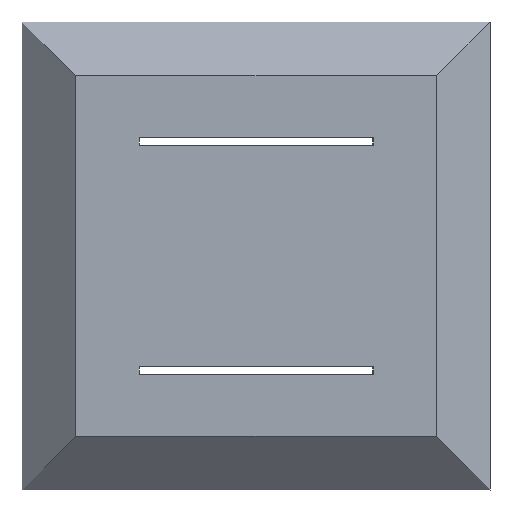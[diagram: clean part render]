
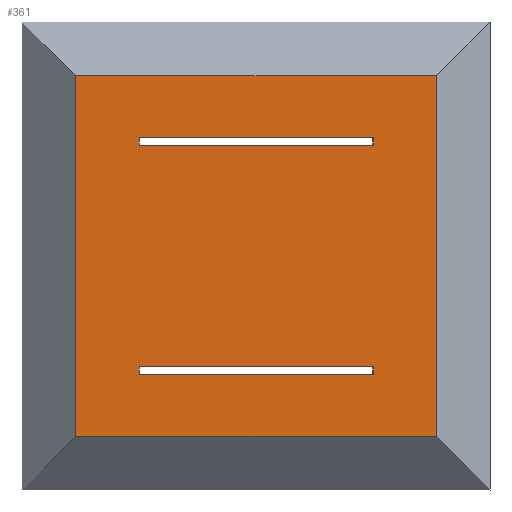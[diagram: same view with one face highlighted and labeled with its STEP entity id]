
A CAD part, front view. The second image highlights one B-rep face of the part: STEP entity #361.
In plain terms, the highlighted planar face has unit normal (0, -1, 0) as drawn and (0, 1, 0) by its records, which use the part's own axes.
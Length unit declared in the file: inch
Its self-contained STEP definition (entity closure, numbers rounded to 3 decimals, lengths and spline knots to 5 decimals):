
#3 = DIRECTION ( 'NONE',  ( 1., 0., 0. ) ) ;
#4 = LINE ( 'NONE', #243, #57 ) ;
#6 = VERTEX_POINT ( 'NONE', #663 ) ;
#10 = ORIENTED_EDGE ( 'NONE', *, *, #345, .F. ) ;
#13 = EDGE_CURVE ( 'NONE', #228, #369, #495, .T. ) ;
#14 = VERTEX_POINT ( 'NONE', #367 ) ;
#15 = CARTESIAN_POINT ( 'NONE',  ( 3.25, 0.475, -3.1875 ) ) ;
#17 = LINE ( 'NONE', #427, #129 ) ;
#47 = CARTESIAN_POINT ( 'NONE',  ( 15.25, 0.475, -14.9375 ) ) ;
#57 = VECTOR ( 'NONE', #293, 39.37008 ) ;
#62 = ORIENTED_EDGE ( 'NONE', *, *, #216, .T. ) ;
#67 = CARTESIAN_POINT ( 'NONE',  ( 0., 0.475, -18.5 ) ) ;
#68 = CARTESIAN_POINT ( 'NONE',  ( 15.25, 0.475, -15.3125 ) ) ;
#83 = EDGE_CURVE ( 'NONE', #6, #170, #716, .T. ) ;
#101 = CARTESIAN_POINT ( 'NONE',  ( 15.25, 0.475, -3.1875 ) ) ;
#107 = ORIENTED_EDGE ( 'NONE', *, *, #734, .F. ) ;
#114 = CARTESIAN_POINT ( 'NONE',  ( 18.5, 0.475, -18.5 ) ) ;
#119 = VERTEX_POINT ( 'NONE', #651 ) ;
#123 = DIRECTION ( 'NONE',  ( 0., 0., 1. ) ) ;
#129 = VECTOR ( 'NONE', #618, 39.37008 ) ;
#133 = VERTEX_POINT ( 'NONE', #190 ) ;
#139 = EDGE_CURVE ( 'NONE', #166, #119, #363, .T. ) ;
#143 = VECTOR ( 'NONE', #123, 39.37008 ) ;
#155 = VERTEX_POINT ( 'NONE', #249 ) ;
#157 = DIRECTION ( 'NONE',  ( 0., 0., -1. ) ) ;
#163 = VECTOR ( 'NONE', #376, 39.37008 ) ;
#166 = VERTEX_POINT ( 'NONE', #15 ) ;
#170 = VERTEX_POINT ( 'NONE', #662 ) ;
#183 = DIRECTION ( 'NONE',  ( -1., 0., 0. ) ) ;
#187 = CARTESIAN_POINT ( 'NONE',  ( 0., 0.475, 0. ) ) ;
#190 = CARTESIAN_POINT ( 'NONE',  ( 18.5, 0.475, 0. ) ) ;
#196 = ORIENTED_EDGE ( 'NONE', *, *, #83, .T. ) ;
#197 = EDGE_CURVE ( 'NONE', #170, #133, #720, .T. ) ;
#198 = DIRECTION ( 'NONE',  ( 0., 0., 1. ) ) ;
#216 = EDGE_CURVE ( 'NONE', #642, #6, #588, .T. ) ;
#222 = VECTOR ( 'NONE', #589, 39.37008 ) ;
#228 = VERTEX_POINT ( 'NONE', #47 ) ;
#236 = VECTOR ( 'NONE', #183, 39.37008 ) ;
#238 = CARTESIAN_POINT ( 'NONE',  ( 3.25, 0.475, -3.1875 ) ) ;
#243 = CARTESIAN_POINT ( 'NONE',  ( 18.5, 0.475, 0. ) ) ;
#249 = CARTESIAN_POINT ( 'NONE',  ( 3.25, 0.475, -14.9375 ) ) ;
#253 = ORIENTED_EDGE ( 'NONE', *, *, #344, .F. ) ;
#261 = CARTESIAN_POINT ( 'NONE',  ( 15.25, 0.475, -15.3125 ) ) ;
#278 = EDGE_LOOP ( 'NONE', ( #196, #570, #407, #62 ) ) ;
#293 = DIRECTION ( 'NONE',  ( 0., 0., -1. ) ) ;
#299 = FACE_BOUND ( 'NONE', #729, .T. ) ;
#300 = ORIENTED_EDGE ( 'NONE', *, *, #13, .F. ) ;
#301 = DIRECTION ( 'NONE',  ( -1., 0., 0. ) ) ;
#308 = CARTESIAN_POINT ( 'NONE',  ( 0., 0.475, 0. ) ) ;
#318 = DIRECTION ( 'NONE',  ( 1., 0., 0. ) ) ;
#326 = VECTOR ( 'NONE', #301, 39.37008 ) ;
#328 = CARTESIAN_POINT ( 'NONE',  ( 3.25, 0.475, -3.5625 ) ) ;
#330 = CARTESIAN_POINT ( 'NONE',  ( 3.25, 0.475, -3.5625 ) ) ;
#333 = EDGE_CURVE ( 'NONE', #133, #642, #4, .T. ) ;
#344 = EDGE_CURVE ( 'NONE', #14, #155, #408, .T. ) ;
#345 = EDGE_CURVE ( 'NONE', #488, #166, #712, .T. ) ;
#355 = DIRECTION ( 'NONE',  ( 0., 0., -1. ) ) ;
#361 = ADVANCED_FACE ( 'NONE', ( #763, #299, #529 ), #412, .F. ) ;
#363 = LINE ( 'NONE', #592, #463 ) ;
#365 = VECTOR ( 'NONE', #689, 39.37008 ) ;
#367 = CARTESIAN_POINT ( 'NONE',  ( 3.25, 0.475, -15.3125 ) ) ;
#369 = VERTEX_POINT ( 'NONE', #68 ) ;
#373 = EDGE_CURVE ( 'NONE', #369, #14, #466, .T. ) ;
#376 = DIRECTION ( 'NONE',  ( 0., 0., -1. ) ) ;
#390 = VERTEX_POINT ( 'NONE', #730 ) ;
#405 = VECTOR ( 'NONE', #157, 39.37008 ) ;
#406 = EDGE_CURVE ( 'NONE', #390, #488, #561, .T. ) ;
#407 = ORIENTED_EDGE ( 'NONE', *, *, #333, .T. ) ;
#408 = LINE ( 'NONE', #647, #143 ) ;
#412 = PLANE ( 'NONE',  #477 ) ;
#421 = CARTESIAN_POINT ( 'NONE',  ( 0., 0.475, 0. ) ) ;
#427 = CARTESIAN_POINT ( 'NONE',  ( 3.25, 0.475, -14.9375 ) ) ;
#434 = LINE ( 'NONE', #101, #405 ) ;
#446 = VECTOR ( 'NONE', #198, 39.37008 ) ;
#461 = EDGE_CURVE ( 'NONE', #119, #390, #434, .T. ) ;
#463 = VECTOR ( 'NONE', #318, 39.37008 ) ;
#466 = LINE ( 'NONE', #707, #236 ) ;
#477 = AXIS2_PLACEMENT_3D ( 'NONE', #187, #652, #355 ) ;
#488 = VERTEX_POINT ( 'NONE', #330 ) ;
#495 = LINE ( 'NONE', #261, #163 ) ;
#519 = VECTOR ( 'NONE', #3, 39.37008 ) ;
#529 = FACE_OUTER_BOUND ( 'NONE', #278, .T. ) ;
#561 = LINE ( 'NONE', #328, #365 ) ;
#570 = ORIENTED_EDGE ( 'NONE', *, *, #197, .T. ) ;
#588 = LINE ( 'NONE', #67, #326 ) ;
#589 = DIRECTION ( 'NONE',  ( 0., 0., 1. ) ) ;
#592 = CARTESIAN_POINT ( 'NONE',  ( 3.25, 0.475, -3.1875 ) ) ;
#604 = EDGE_LOOP ( 'NONE', ( #107, #253, #634, #300 ) ) ;
#618 = DIRECTION ( 'NONE',  ( 1., 0., 0. ) ) ;
#634 = ORIENTED_EDGE ( 'NONE', *, *, #373, .F. ) ;
#642 = VERTEX_POINT ( 'NONE', #114 ) ;
#647 = CARTESIAN_POINT ( 'NONE',  ( 3.25, 0.475, -15.3125 ) ) ;
#651 = CARTESIAN_POINT ( 'NONE',  ( 15.25, 0.475, -3.1875 ) ) ;
#652 = DIRECTION ( 'NONE',  ( 0., -1., 0. ) ) ;
#662 = CARTESIAN_POINT ( 'NONE',  ( 0., 0.475, 0. ) ) ;
#663 = CARTESIAN_POINT ( 'NONE',  ( 0., 0.475, -18.5 ) ) ;
#678 = ORIENTED_EDGE ( 'NONE', *, *, #139, .F. ) ;
#689 = DIRECTION ( 'NONE',  ( -1., 0., 0. ) ) ;
#707 = CARTESIAN_POINT ( 'NONE',  ( 3.25, 0.475, -15.3125 ) ) ;
#712 = LINE ( 'NONE', #238, #222 ) ;
#714 = ORIENTED_EDGE ( 'NONE', *, *, #406, .F. ) ;
#716 = LINE ( 'NONE', #308, #446 ) ;
#720 = LINE ( 'NONE', #421, #519 ) ;
#729 = EDGE_LOOP ( 'NONE', ( #678, #10, #714, #757 ) ) ;
#730 = CARTESIAN_POINT ( 'NONE',  ( 15.25, 0.475, -3.5625 ) ) ;
#734 = EDGE_CURVE ( 'NONE', #155, #228, #17, .T. ) ;
#757 = ORIENTED_EDGE ( 'NONE', *, *, #461, .F. ) ;
#763 = FACE_BOUND ( 'NONE', #604, .T. ) ;
